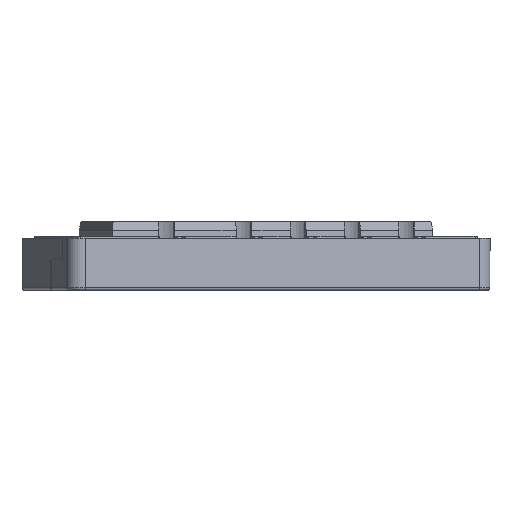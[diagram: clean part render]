
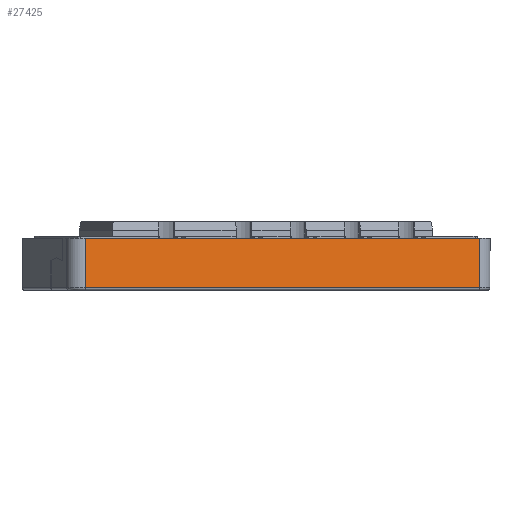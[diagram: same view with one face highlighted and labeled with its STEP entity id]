
A CAD part, front view. The second image highlights one B-rep face of the part: STEP entity #27425.
In plain terms, the highlighted planar face has unit normal (0.304, -0.953, 0) as drawn and (0, -1, 0) by its records, which use the part's own axes.
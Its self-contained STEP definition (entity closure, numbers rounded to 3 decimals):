
#2423=PLANE('',#29473);
#3863=FACE_OUTER_BOUND('',#5464,.T.);
#5464=EDGE_LOOP('',(#25429,#25430,#25431,#25432));
#7784=LINE('',#47174,#10493);
#8143=LINE('',#48404,#10852);
#8150=LINE('',#48433,#10859);
#8151=LINE('',#48435,#10860);
#10493=VECTOR('',#35099,10.);
#10852=VECTOR('',#35860,10.);
#10859=VECTOR('',#35893,10.);
#10860=VECTOR('',#35896,10.);
#13645=VERTEX_POINT('',#47171);
#13646=VERTEX_POINT('',#47173);
#13972=VERTEX_POINT('',#48396);
#13974=VERTEX_POINT('',#48402);
#17358=EDGE_CURVE('',#13645,#13646,#7784,.T.);
#17822=EDGE_CURVE('',#13974,#13972,#8143,.T.);
#17838=EDGE_CURVE('',#13646,#13974,#8150,.T.);
#17839=EDGE_CURVE('',#13972,#13645,#8151,.T.);
#25429=ORIENTED_EDGE('',*,*,#17822,.F.);
#25430=ORIENTED_EDGE('',*,*,#17838,.F.);
#25431=ORIENTED_EDGE('',*,*,#17358,.F.);
#25432=ORIENTED_EDGE('',*,*,#17839,.F.);
#27425=ADVANCED_FACE('',(#3863),#2423,.T.);
#29473=AXIS2_PLACEMENT_3D('',#48434,#35894,#35895);
#35099=DIRECTION('',(1.,0.,0.));
#35860=DIRECTION('',(-1.,0.,0.));
#35893=DIRECTION('',(0.,0.,-1.));
#35894=DIRECTION('center_axis',(0.,-1.,0.));
#35895=DIRECTION('ref_axis',(0.,0.,-1.));
#35896=DIRECTION('',(0.,0.,1.));
#47171=CARTESIAN_POINT('',(-69.,-29.,-0.5));
#47173=CARTESIAN_POINT('',(69.,-29.,-0.5));
#47174=CARTESIAN_POINT('',(-74.,-29.,-0.5));
#48396=CARTESIAN_POINT('',(-69.,-29.,-17.));
#48402=CARTESIAN_POINT('',(69.,-29.,-17.));
#48404=CARTESIAN_POINT('',(-34.675,-29.,-17.));
#48433=CARTESIAN_POINT('',(69.,-29.,-0.25));
#48434=CARTESIAN_POINT('Origin',(-74.,-29.,-0.5));
#48435=CARTESIAN_POINT('',(-69.,-29.,-0.25));
